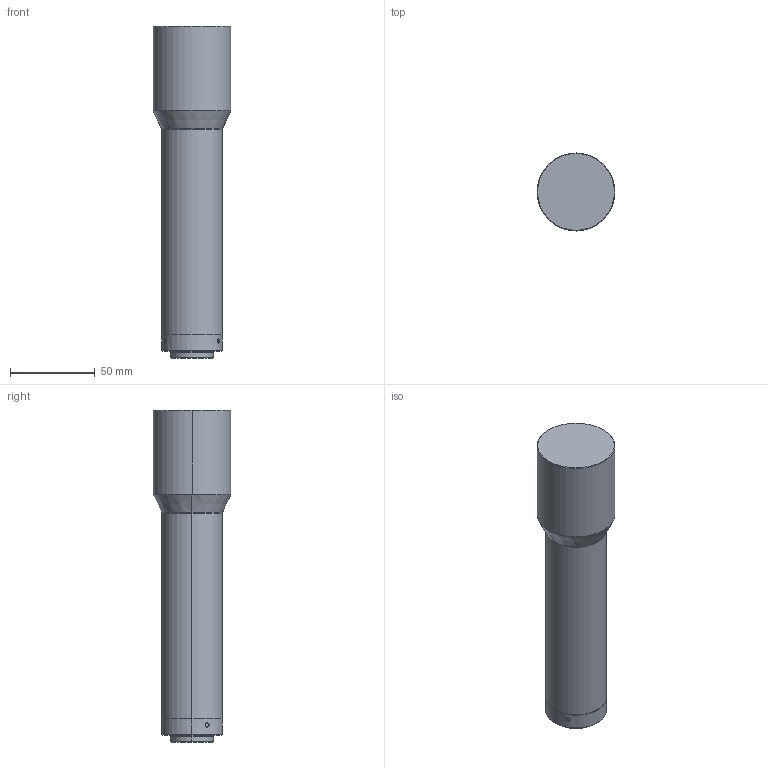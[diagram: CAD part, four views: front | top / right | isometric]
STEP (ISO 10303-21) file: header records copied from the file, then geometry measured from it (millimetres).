
FILE_DESCRIPTION (( 'STEP AP214' ), '1' );
FILE_NAME ('WK045-610-111.STEP', '2024-04-28T06:37:54', ( '' ), ( '' ), 'SwSTEP 2.0', 'SolidWorks 2017', '' );
FILE_SCHEMA (( 'AUTOMOTIVE_DESIGN' ));
Length unit declared in the file: millimetre
Products named in the file (1): WK045-610-111
Bounding box: 46 x 46 x 196.08 mm (x, y, z)
Volume: 232990.2 mm3; surface area: 26659.5 mm2
Topology: 1 solids, 1 shells, 38 faces, 74 edges, 44 vertices
Faces by surface type: cylinder 19, cone 10, plane 5, torus 4
Entity records: 1589 total; most frequent: CARTESIAN_POINT 385, DIRECTION 176, ORIENTED_EDGE 148, AXIS2_PLACEMENT_3D 75, EDGE_CURVE 74, EDGE_LOOP 44, VERTEX_POINT 44, ADVANCED_FACE 38
